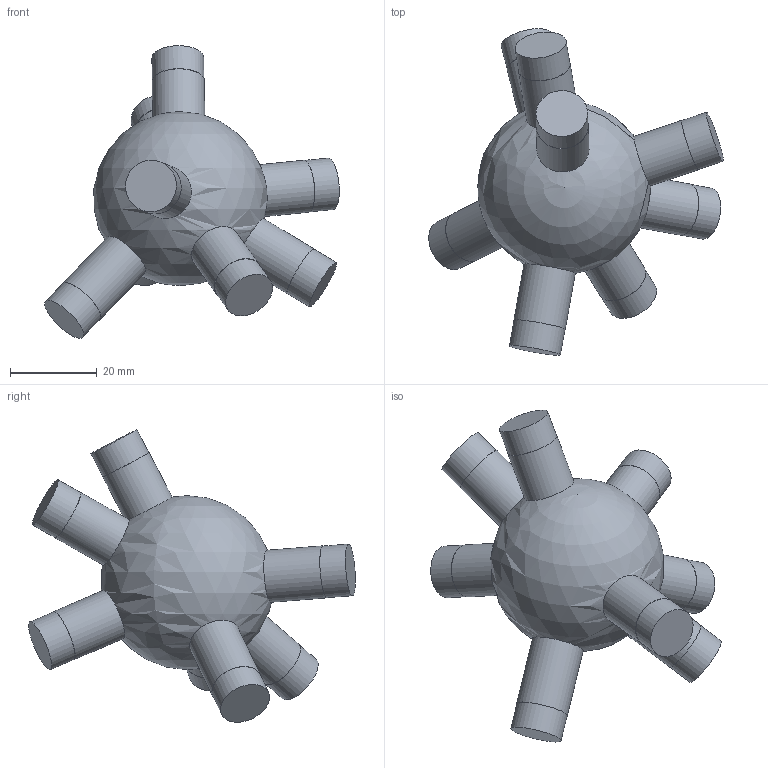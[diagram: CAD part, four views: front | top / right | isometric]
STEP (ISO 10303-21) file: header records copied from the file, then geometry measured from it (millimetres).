
FILE_DESCRIPTION(('Open CASCADE Model'),'2;1');
FILE_NAME('Open CASCADE Shape Model','2026-10-21T12:47:57',('Author'),( 'Open CASCADE'),'Open CASCADE STEP processor 7.9','Open CASCADE 7.9' ,'Unknown');
FILE_SCHEMA(('AUTOMOTIVE_DESIGN { 1 0 10303 214 1 1 1 1 }'));
Length unit declared in the file: millimetre
Products named in the file (1): Open CASCADE STEP translator 7.9 95
Bounding box: 67.74 x 75.15 x 67.29 mm (x, y, z)
Volume: 50147.9 mm3; surface area: 10703.8 mm2
Topology: 1 solids, 1 shells, 33 faces, 57 edges, 39 vertices
Faces by surface type: cylinder 16, plane 16, sphere 1
Full cylindrical faces by diameter (mm): 11.9 x8, 12 x8
Entity records: 2087 total; most frequent: CARTESIAN_POINT 816, DIRECTION 258, ORIENTED_EDGE 112, PCURVE 112, DEFINITIONAL_REPRESENTATION 112, LINE 86, VECTOR 86, AXIS2_PLACEMENT_3D 74
